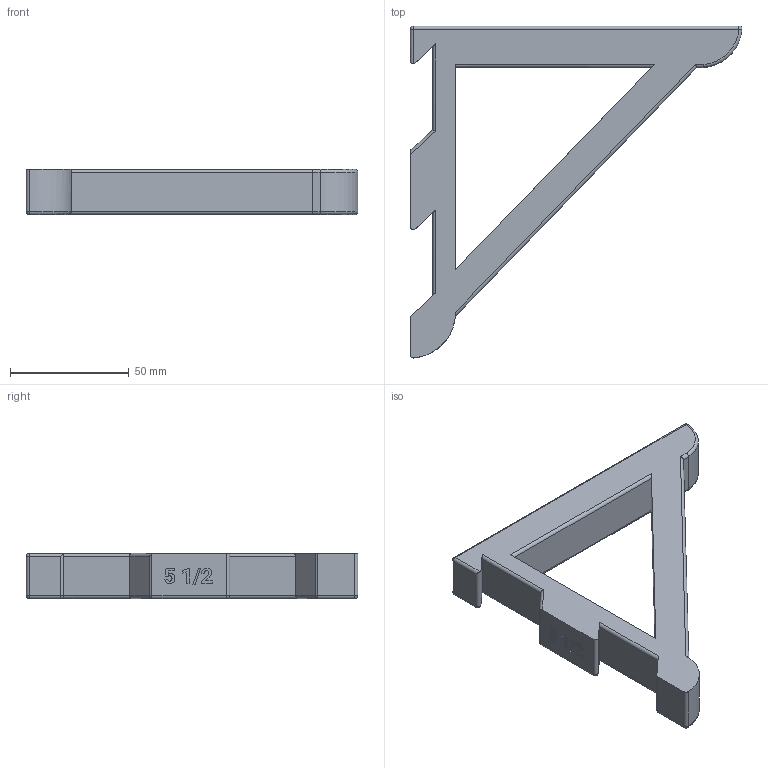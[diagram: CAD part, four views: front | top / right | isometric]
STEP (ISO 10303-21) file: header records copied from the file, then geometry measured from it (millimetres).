
FILE_DESCRIPTION(/* description */ ('STEP AP242','CAx-IF Rec.Pracs.---Representation and Presentation of Product Manufacturing Information (PMI)---4.0---2014-10-13','CAx-IF Rec.Pracs.---3D Tessellated Geometry---0.4---2014-09-14','2;1'),/* implementation_level */ '2;1');
FILE_NAME(/* name */ '677e130a248f357686528fb2',/* time_stamp */ '2025-01-08T05:54:19Z',/* author */ (''),/* organization */ (''),/* preprocessor_version */ 'ST-DEVELOPER v20',/* originating_system */ 'ONSHAPE BY PTC INC, 1.191',/* authorisation */ ' ');
FILE_SCHEMA (('AP242_MANAGED_MODEL_BASED_3D_ENGINEERING_MIM_LF { 1 0 10303 442 1 1 4 }'));
Length unit declared in the file: metre
Products named in the file (1): Shelf Bracket-5.5
Bounding box: 139.65 x 139.65 x 19.05 mm (x, y, z)
Volume: 109352.8 mm3; surface area: 26340.8 mm2
Topology: 1 solids, 1 shells, 120 faces, 311 edges, 188 vertices
Faces by surface type: plane 47, cylinder 37, bspline 24, sphere 9, torus 3
Entity records: 3663 total; most frequent: CARTESIAN_POINT 892, ORIENTED_EDGE 604, DIRECTION 510, EDGE_CURVE 302, VERTEX_POINT 188, LINE 184, VECTOR 184, AXIS2_PLACEMENT_3D 163
